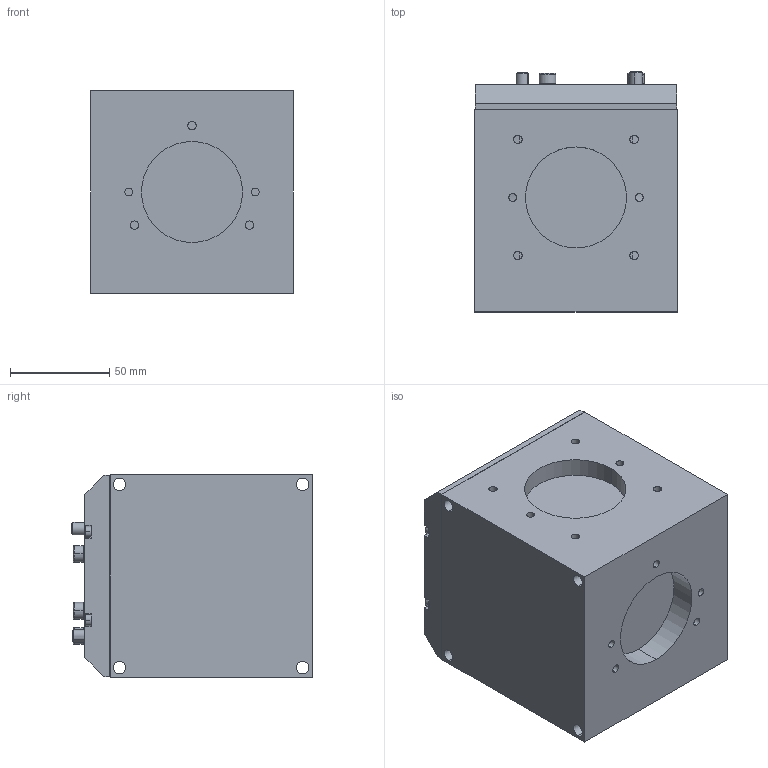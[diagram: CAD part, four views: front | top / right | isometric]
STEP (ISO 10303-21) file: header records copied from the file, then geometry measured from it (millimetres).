
FILE_DESCRIPTION (( 'STEP AP214' ), '1' );
FILE_NAME ('BSK-50-76064-N.STEP', '2017-04-18T14:24:28', ( '' ), ( '' ), 'SwSTEP 2.0', 'SolidWorks 2017', '' );
FILE_SCHEMA (( 'AUTOMOTIVE_DESIGN' ));
Length unit declared in the file: inch
Products named in the file (1): BSK-50-76064-N
Bounding box: 101.6 x 120.78 x 101.6 mm (x, y, z)
Volume: 1090072 mm3; surface area: 87882.7 mm2
Topology: 1 solids, 1 shells, 280 faces, 696 edges, 459 vertices
Faces by surface type: plane 129, cylinder 114, torus 20, bspline 9, cone 4, sphere 4
Entity records: 104801 total; most frequent: CARTESIAN_POINT 97903, DIRECTION 1453, ORIENTED_EDGE 1392, EDGE_CURVE 696, AXIS2_PLACEMENT_3D 541, VERTEX_POINT 459, LINE 371, VECTOR 371
